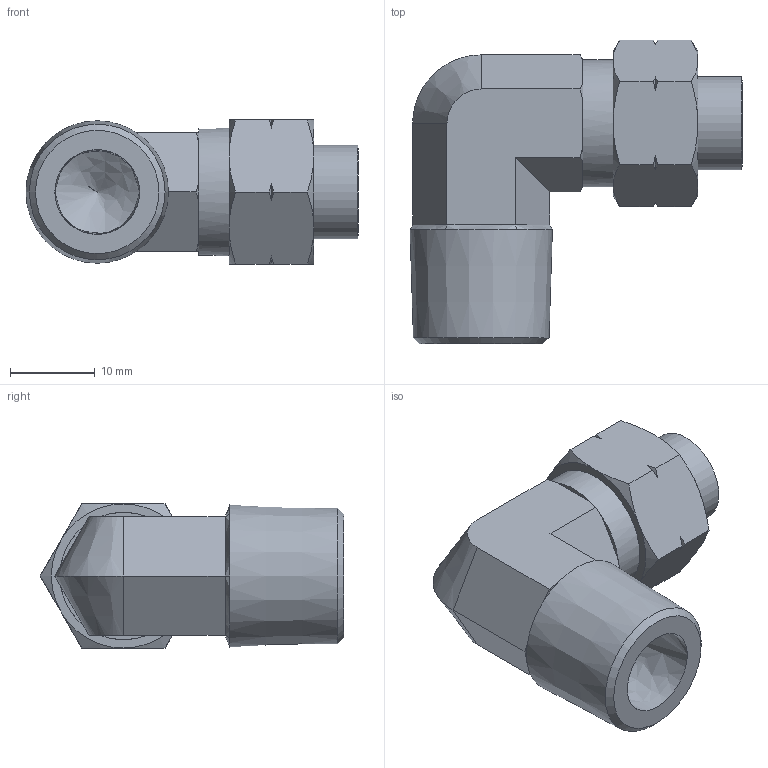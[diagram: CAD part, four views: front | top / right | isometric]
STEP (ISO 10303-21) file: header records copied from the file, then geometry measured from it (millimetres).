
FILE_DESCRIPTION((''),'2;1');
FILE_NAME('D:\INVENTOR\[New Inventor]\CDC Products 3D Ass''y\Two-Touch Fittings\Metric\CL\CL10-6.5--03.stp','2009-02-23T16:30:57',('Microsoft'),(''),'Autodesk Inventor 2008','Autodesk Inventor 2008','');
FILE_SCHEMA(('AUTOMOTIVE_DESIGN { 1 0 10303 214 1 1 1 1 }'));
Length unit declared in the file: millimetre
Products named in the file (1): CL10-6
Bounding box: 39.17 x 35.81 x 17 mm (x, y, z)
Volume: 6733.6 mm3; surface area: 5249.3 mm2
Topology: 1 solids, 1 shells, 76 faces, 177 edges, 105 vertices
Faces by surface type: cone 33, plane 27, bspline 10, cylinder 5, torus 1
Full cylindrical faces by diameter (mm): 5 x1, 6.3 x1, 10.2 x1, 11 x1, 15 x1
Entity records: 2285 total; most frequent: CARTESIAN_POINT 804, ORIENTED_EDGE 322, DIRECTION 276, EDGE_CURVE 161, AXIS2_PLACEMENT_3D 117, VERTEX_POINT 100, EDGE_LOOP 91, FACE_OUTER_BOUND 76
